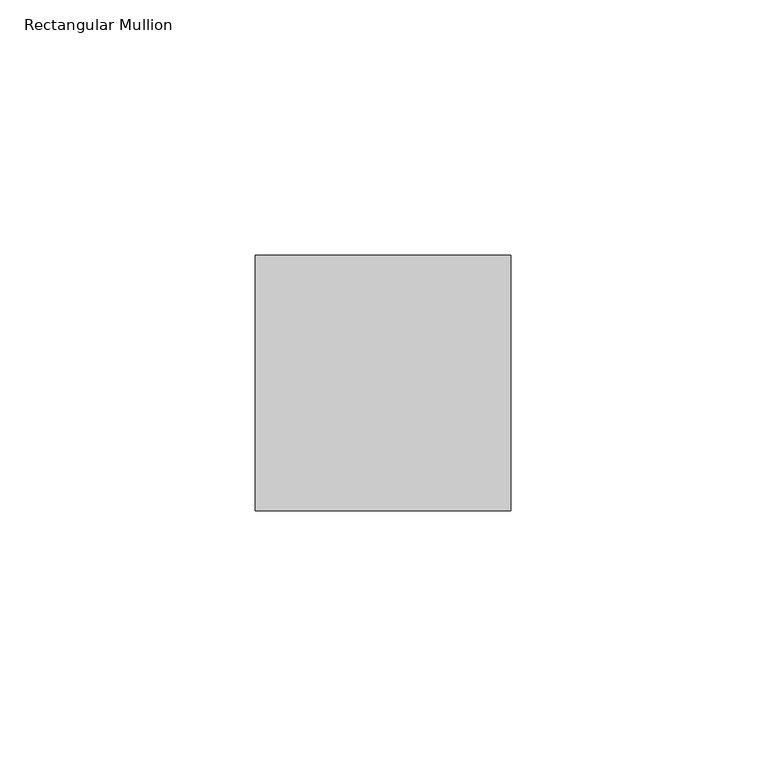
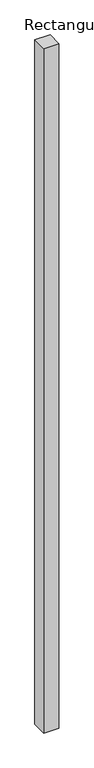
"""IFC4 building model written with IfcOpenShell, lengths in millimetres: member geometry, Rectangular Mullion : Mullion_Curtain Wall_Generic Showcase_50x50mm."""

from ifc_helpers import new_model, si_unit, frame, origin, place, context, project, spatial, polyline, outline, extrude, source, transform, mapped, element, save


def rectangular_mullion_1d8641f2(model_context):
    return source(origin(), model_context, "Body", "SweptSolid", [
        extrude(outline(polyline([(25.0, 0.0), (25.0, -50.0), (-25.0, -50.0), (-25.0, 0.0), (25.0, 0.0)])), frame((0.0, 0.0, -2375.0), z_axis=(0.0, 0.0, 1.0), x_axis=(1.0, 0.0, 0.0)), (0.0, 0.0, 1.0), 2375.0),
    ])


if __name__ == "__main__":
    model = new_model("IFC4")
    model_context = context("Model", 3, world=origin())
    ifc_project = project(units=[si_unit("LENGTHUNIT", "METRE", prefix="MILLI")], contexts=[model_context])
    site = spatial("IfcSite", under=ifc_project)
    building = spatial("IfcBuilding", under=site)
    placement = place(None, origin())
    rectangular_mullion_shape = rectangular_mullion_1d8641f2(model_context)
    element("IfcMember", 1, ObjectType="Rectangular Mullion : Mullion_Curtain Wall_Generic Showcase_50x50mm", at=placement, inside=building, context=model_context, shape_type="MappedRepresentation", body=[
        mapped(rectangular_mullion_shape, transform((0.0, 0.0, 0.0), x_axis=(1.0, 0.0, 0.0), y_axis=(0.0, 1.0, 0.0), z_axis=(0.0, 0.0, 1.0))),
    ])
    save(model, "model.ifc")
